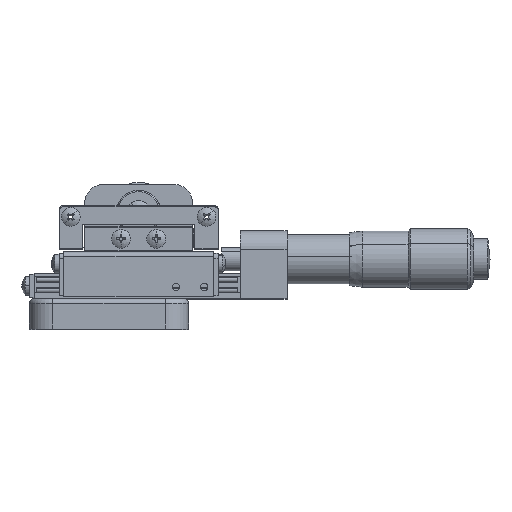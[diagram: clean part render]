
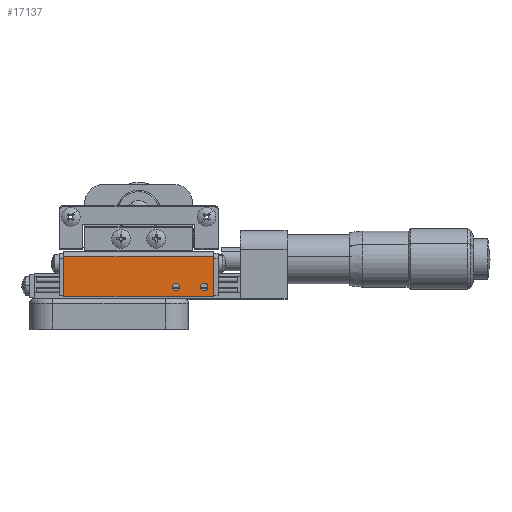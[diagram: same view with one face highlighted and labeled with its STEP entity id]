
A CAD part, top view. The second image highlights one B-rep face of the part: STEP entity #17137.
In plain terms, the highlighted planar face has unit normal (0, 0, 1).
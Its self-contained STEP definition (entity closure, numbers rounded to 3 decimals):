
#21 = EDGE_CURVE ( 'NONE', #9239, #14393, #35650, .T. ) ;
#853 = DIRECTION ( 'NONE',  ( 1., 0., 0. ) ) ;
#1133 = CARTESIAN_POINT ( 'NONE',  ( 16.323, 7., 17. ) ) ;
#1599 = AXIS2_PLACEMENT_3D ( 'NONE', #35482, #32698, #15204 ) ;
#1652 = CARTESIAN_POINT ( 'NONE',  ( 8.323, -0.5, 17. ) ) ;
#2652 = VERTEX_POINT ( 'NONE', #7487 ) ;
#3802 = VERTEX_POINT ( 'NONE', #24210 ) ;
#4857 = FACE_OUTER_BOUND ( 'NONE', #30826, .T. ) ;
#4963 = ORIENTED_EDGE ( 'NONE', *, *, #29887, .T. ) ;
#5012 = EDGE_CURVE ( 'NONE', #14393, #9239, #18159, .T. ) ;
#5262 = CARTESIAN_POINT ( 'NONE',  ( -15.677, -2.5, 17. ) ) ;
#5304 = CARTESIAN_POINT ( 'NONE',  ( -15.677, 6., 17. ) ) ;
#5763 = AXIS2_PLACEMENT_3D ( 'NONE', #1652, #9313, #20431 ) ;
#6182 = CIRCLE ( 'NONE', #36094, 0.8 ) ;
#6701 = CARTESIAN_POINT ( 'NONE',  ( 14.323, -0.5, 17. ) ) ;
#6708 = CARTESIAN_POINT ( 'NONE',  ( 7.523, -0.5, 17. ) ) ;
#7487 = CARTESIAN_POINT ( 'NONE',  ( 16.323, 6., 17. ) ) ;
#7602 = VERTEX_POINT ( 'NONE', #23649 ) ;
#8376 = VERTEX_POINT ( 'NONE', #5262 ) ;
#9239 = VERTEX_POINT ( 'NONE', #6708 ) ;
#9313 = DIRECTION ( 'NONE',  ( 0., 0., 1. ) ) ;
#9674 = DIRECTION ( 'NONE',  ( 1., 0., 0. ) ) ;
#9955 = VECTOR ( 'NONE', #15929, 1000. ) ;
#10735 = CARTESIAN_POINT ( 'NONE',  ( -15.677, 7., 17. ) ) ;
#12520 = DIRECTION ( 'NONE',  ( 1., 0., 0. ) ) ;
#12675 = FACE_BOUND ( 'NONE', #33159, .T. ) ;
#12816 = EDGE_CURVE ( 'NONE', #8376, #3802, #16755, .T. ) ;
#13479 = CIRCLE ( 'NONE', #16339, 0.8 ) ;
#13771 = LINE ( 'NONE', #10735, #27466 ) ;
#14393 = VERTEX_POINT ( 'NONE', #36815 ) ;
#14966 = PLANE ( 'NONE',  #1599 ) ;
#15204 = DIRECTION ( 'NONE',  ( -1., 0., 0. ) ) ;
#15929 = DIRECTION ( 'NONE',  ( 1., 0., 0. ) ) ;
#16231 = CARTESIAN_POINT ( 'NONE',  ( 13.523, -0.5, 17. ) ) ;
#16339 = AXIS2_PLACEMENT_3D ( 'NONE', #6701, #27129, #9674 ) ;
#16684 = AXIS2_PLACEMENT_3D ( 'NONE', #23990, #32384, #12520 ) ;
#16755 = LINE ( 'NONE', #27540, #9955 ) ;
#16946 = ORIENTED_EDGE ( 'NONE', *, *, #21, .F. ) ;
#17137 = ADVANCED_FACE ( 'NONE', ( #12675, #20383, #4857 ), #14966, .F. ) ;
#17362 = VECTOR ( 'NONE', #18682, 1000. ) ;
#18159 = CIRCLE ( 'NONE', #5763, 0.8 ) ;
#18385 = DIRECTION ( 'NONE',  ( 0., 0., 1. ) ) ;
#18512 = CARTESIAN_POINT ( 'NONE',  ( 15.123, -0.5, 17. ) ) ;
#18661 = EDGE_CURVE ( 'NONE', #25097, #30456, #13479, .T. ) ;
#18682 = DIRECTION ( 'NONE',  ( 0., -1., 0. ) ) ;
#20383 = FACE_BOUND ( 'NONE', #36292, .T. ) ;
#20431 = DIRECTION ( 'NONE',  ( 1., 0., 0. ) ) ;
#22166 = EDGE_CURVE ( 'NONE', #7602, #8376, #13771, .T. ) ;
#22531 = ORIENTED_EDGE ( 'NONE', *, *, #24291, .F. ) ;
#22536 = ORIENTED_EDGE ( 'NONE', *, *, #22166, .T. ) ;
#22684 = ORIENTED_EDGE ( 'NONE', *, *, #5012, .F. ) ;
#23649 = CARTESIAN_POINT ( 'NONE',  ( -15.677, 6., 17. ) ) ;
#23990 = CARTESIAN_POINT ( 'NONE',  ( 8.323, -0.5, 17. ) ) ;
#24210 = CARTESIAN_POINT ( 'NONE',  ( 16.323, -2.5, 17. ) ) ;
#24291 = EDGE_CURVE ( 'NONE', #2652, #3802, #32898, .T. ) ;
#25097 = VERTEX_POINT ( 'NONE', #18512 ) ;
#27129 = DIRECTION ( 'NONE',  ( 0., 0., 1. ) ) ;
#27466 = VECTOR ( 'NONE', #36934, 1000. ) ;
#27540 = CARTESIAN_POINT ( 'NONE',  ( -15.677, -2.5, 17. ) ) ;
#28280 = ORIENTED_EDGE ( 'NONE', *, *, #12816, .T. ) ;
#28690 = DIRECTION ( 'NONE',  ( -1., 0., 0. ) ) ;
#28781 = EDGE_CURVE ( 'NONE', #30456, #25097, #6182, .T. ) ;
#29887 = EDGE_CURVE ( 'NONE', #2652, #7602, #29896, .T. ) ;
#29896 = LINE ( 'NONE', #5304, #35802 ) ;
#30456 = VERTEX_POINT ( 'NONE', #16231 ) ;
#30826 = EDGE_LOOP ( 'NONE', ( #22531, #4963, #22536, #28280 ) ) ;
#32384 = DIRECTION ( 'NONE',  ( 0., 0., 1. ) ) ;
#32698 = DIRECTION ( 'NONE',  ( 0., 0., -1. ) ) ;
#32898 = LINE ( 'NONE', #1133, #17362 ) ;
#33159 = EDGE_LOOP ( 'NONE', ( #35423, #33205 ) ) ;
#33205 = ORIENTED_EDGE ( 'NONE', *, *, #28781, .F. ) ;
#35423 = ORIENTED_EDGE ( 'NONE', *, *, #18661, .F. ) ;
#35482 = CARTESIAN_POINT ( 'NONE',  ( -15.677, 7., 17. ) ) ;
#35650 = CIRCLE ( 'NONE', #16684, 0.8 ) ;
#35802 = VECTOR ( 'NONE', #28690, 1000. ) ;
#35836 = CARTESIAN_POINT ( 'NONE',  ( 14.323, -0.5, 17. ) ) ;
#36094 = AXIS2_PLACEMENT_3D ( 'NONE', #35836, #18385, #853 ) ;
#36292 = EDGE_LOOP ( 'NONE', ( #22684, #16946 ) ) ;
#36815 = CARTESIAN_POINT ( 'NONE',  ( 9.123, -0.5, 17. ) ) ;
#36934 = DIRECTION ( 'NONE',  ( 0., -1., 0. ) ) ;
